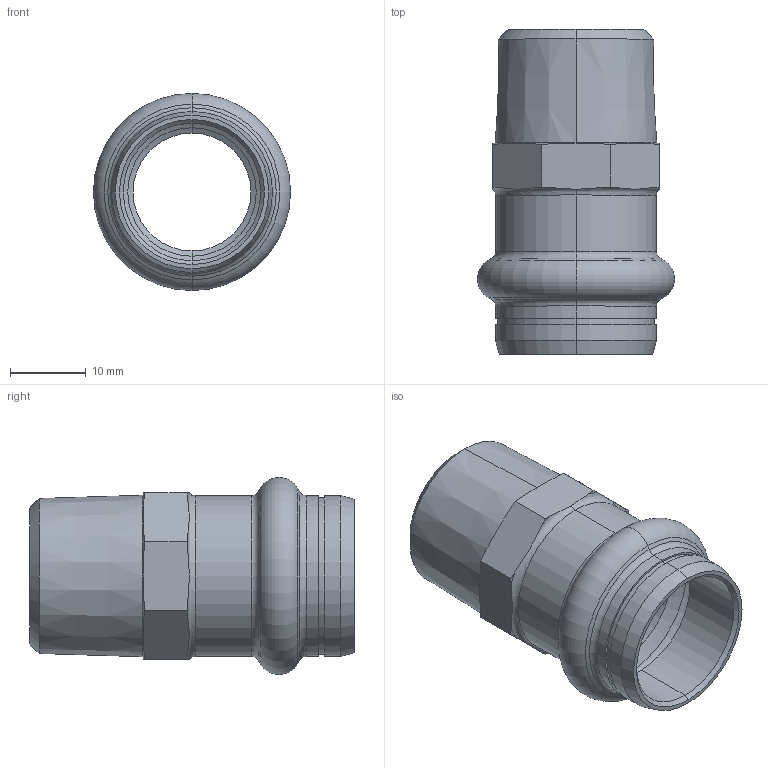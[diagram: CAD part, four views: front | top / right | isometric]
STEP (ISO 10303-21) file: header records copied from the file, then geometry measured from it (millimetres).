
FILE_DESCRIPTION (( 'STEP AP203' ), '1' );
FILE_NAME ('SP4243G Ø18 1-2.STEP', '2017-04-26T07:43:53', ( '' ), ( '' ), 'SwSTEP 2.0', 'SolidWorks 2016', '' );
FILE_SCHEMA (( 'CONFIG_CONTROL_DESIGN' ));
Length unit declared in the file: millimetre
Products named in the file (1): SP4243G Ø18 1-2
Bounding box: 26.1 x 43 x 26.1 mm (x, y, z)
Volume: 5768.8 mm3; surface area: 5914.2 mm2
Topology: 1 solids, 1 shells, 67 faces, 152 edges, 90 vertices
Faces by surface type: cone 28, cylinder 16, plane 13, torus 10
Entity records: 2043 total; most frequent: CARTESIAN_POINT 478, DIRECTION 324, ORIENTED_EDGE 304, EDGE_CURVE 152, AXIS2_PLACEMENT_3D 140, VERTEX_POINT 90, CIRCLE 72, EDGE_LOOP 72
